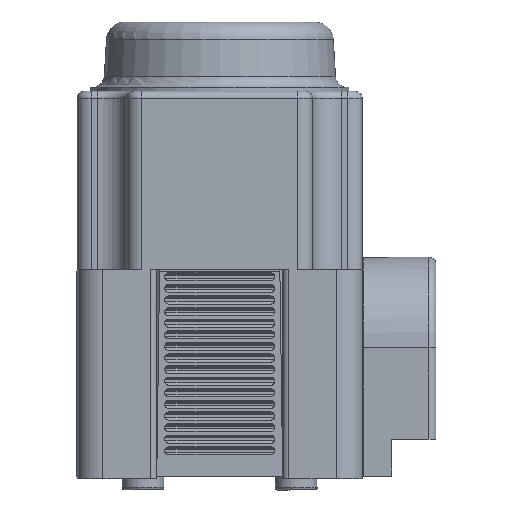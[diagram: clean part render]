
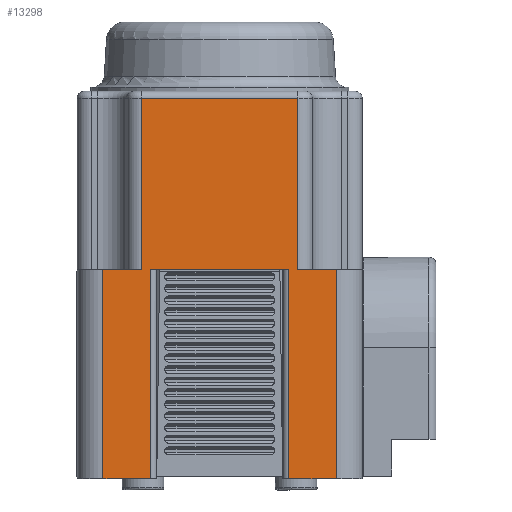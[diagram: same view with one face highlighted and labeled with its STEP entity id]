
A CAD part, left-side view. The second image highlights one B-rep face of the part: STEP entity #13298.
In plain terms, the highlighted planar face has unit normal (-1, 0, 0).
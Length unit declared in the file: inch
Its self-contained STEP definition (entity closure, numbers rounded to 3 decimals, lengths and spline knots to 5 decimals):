
#530=PLANE('',#14794);
#1469=FACE_OUTER_BOUND('',#2275,.T.);
#2275=EDGE_LOOP('',(#11425,#11426,#11427,#11428,#11429,#11430,#11431,#11432,
#11433,#11434,#11435,#11436));
#3758=LINE('',#26701,#4590);
#3771=LINE('',#26771,#4603);
#3887=LINE('',#28344,#4719);
#3904=LINE('',#28403,#4736);
#3905=LINE('',#28407,#4737);
#3908=LINE('',#28426,#4740);
#3921=LINE('',#28502,#4753);
#3922=LINE('',#28506,#4754);
#3923=LINE('',#28507,#4755);
#3924=LINE('',#28509,#4756);
#3925=LINE('',#28511,#4757);
#3926=LINE('',#28512,#4758);
#4590=VECTOR('',#17963,0.3937);
#4603=VECTOR('',#18046,0.3937);
#4719=VECTOR('',#18356,0.3937);
#4736=VECTOR('',#18427,0.3937);
#4737=VECTOR('',#18432,0.3937);
#4740=VECTOR('',#18453,0.3937);
#4753=VECTOR('',#18554,0.3937);
#4754=VECTOR('',#18559,0.3937);
#4755=VECTOR('',#18560,0.3937);
#4756=VECTOR('',#18561,0.3937);
#4757=VECTOR('',#18562,0.3937);
#4758=VECTOR('',#18563,0.3937);
#5788=VERTEX_POINT('',#26693);
#5790=VERTEX_POINT('',#26699);
#5812=VERTEX_POINT('',#26769);
#5942=VERTEX_POINT('',#28341);
#5943=VERTEX_POINT('',#28343);
#5958=VERTEX_POINT('',#28402);
#5959=VERTEX_POINT('',#28406);
#5966=VERTEX_POINT('',#28424);
#5985=VERTEX_POINT('',#28501);
#5986=VERTEX_POINT('',#28505);
#5987=VERTEX_POINT('',#28508);
#5988=VERTEX_POINT('',#28510);
#7517=EDGE_CURVE('',#5790,#5788,#3758,.T.);
#7553=EDGE_CURVE('',#5812,#5790,#3771,.T.);
#7755=EDGE_CURVE('',#5943,#5942,#3887,.T.);
#7784=EDGE_CURVE('',#5958,#5788,#3904,.T.);
#7786=EDGE_CURVE('',#5959,#5958,#3905,.T.);
#7796=EDGE_CURVE('',#5812,#5966,#3908,.T.);
#7834=EDGE_CURVE('',#5985,#5943,#3921,.T.);
#7836=EDGE_CURVE('',#5986,#5966,#3922,.T.);
#7837=EDGE_CURVE('',#5985,#5986,#3923,.T.);
#7838=EDGE_CURVE('',#5987,#5942,#3924,.T.);
#7839=EDGE_CURVE('',#5987,#5988,#3925,.T.);
#7840=EDGE_CURVE('',#5988,#5959,#3926,.T.);
#11425=ORIENTED_EDGE('',*,*,#7517,.F.);
#11426=ORIENTED_EDGE('',*,*,#7553,.F.);
#11427=ORIENTED_EDGE('',*,*,#7796,.T.);
#11428=ORIENTED_EDGE('',*,*,#7836,.F.);
#11429=ORIENTED_EDGE('',*,*,#7837,.F.);
#11430=ORIENTED_EDGE('',*,*,#7834,.T.);
#11431=ORIENTED_EDGE('',*,*,#7755,.T.);
#11432=ORIENTED_EDGE('',*,*,#7838,.F.);
#11433=ORIENTED_EDGE('',*,*,#7839,.T.);
#11434=ORIENTED_EDGE('',*,*,#7840,.T.);
#11435=ORIENTED_EDGE('',*,*,#7786,.T.);
#11436=ORIENTED_EDGE('',*,*,#7784,.T.);
#13298=ADVANCED_FACE('',(#1469),#530,.T.);
#14794=AXIS2_PLACEMENT_3D('',#28504,#18557,#18558);
#17963=DIRECTION('',(0.,-1.,0.));
#18046=DIRECTION('',(0.,0.,1.));
#18356=DIRECTION('',(0.,-1.,0.));
#18427=DIRECTION('',(0.,0.,1.));
#18432=DIRECTION('',(0.,1.,0.));
#18453=DIRECTION('',(0.,1.,0.));
#18554=DIRECTION('',(0.,0.,1.));
#18557=DIRECTION('center_axis',(-1.,0.,0.));
#18558=DIRECTION('ref_axis',(0.,0.,1.));
#18559=DIRECTION('',(0.,0.,1.));
#18560=DIRECTION('',(0.,1.,0.));
#18561=DIRECTION('',(0.,0.,1.));
#18562=DIRECTION('',(0.,-1.,0.));
#18563=DIRECTION('',(0.,0.,1.));
#26693=CARTESIAN_POINT('',(-1.07457,-0.31547,0.6733));
#26699=CARTESIAN_POINT('',(-1.07457,0.35253,0.6733));
#26701=CARTESIAN_POINT('',(-1.07457,0.35253,0.6733));
#26769=CARTESIAN_POINT('',(-1.07457,0.35253,-0.0587));
#26771=CARTESIAN_POINT('',(-1.07457,0.35253,-0.0587));
#28341=CARTESIAN_POINT('',(-1.07457,-0.27547,-0.0587));
#28343=CARTESIAN_POINT('',(-1.07457,0.31253,-0.0587));
#28344=CARTESIAN_POINT('',(-1.07457,0.31253,-0.0587));
#28402=CARTESIAN_POINT('',(-1.07457,-0.31547,-0.0587));
#28403=CARTESIAN_POINT('',(-1.07457,-0.31547,-0.0587));
#28406=CARTESIAN_POINT('',(-1.07457,-0.48047,-0.0587));
#28407=CARTESIAN_POINT('',(-1.07457,-0.48047,-0.0587));
#28424=CARTESIAN_POINT('',(-1.07457,0.51753,-0.0587));
#28426=CARTESIAN_POINT('',(-1.07457,0.35253,-0.0587));
#28501=CARTESIAN_POINT('',(-1.07457,0.31253,-0.9527));
#28502=CARTESIAN_POINT('',(-1.07457,0.31253,-0.9527));
#28504=CARTESIAN_POINT('Origin',(-1.07457,-0.48087,-0.1397));
#28505=CARTESIAN_POINT('',(-1.07457,0.51753,-0.9527));
#28506=CARTESIAN_POINT('',(-1.07457,0.51753,-0.9527));
#28507=CARTESIAN_POINT('',(-1.07457,0.31253,-0.9527));
#28508=CARTESIAN_POINT('',(-1.07457,-0.27547,-0.9527));
#28509=CARTESIAN_POINT('',(-1.07457,-0.27547,-0.9527));
#28510=CARTESIAN_POINT('',(-1.07457,-0.48047,-0.9527));
#28511=CARTESIAN_POINT('',(-1.07457,-0.27547,-0.9527));
#28512=CARTESIAN_POINT('',(-1.07457,-0.48047,-0.9527));
